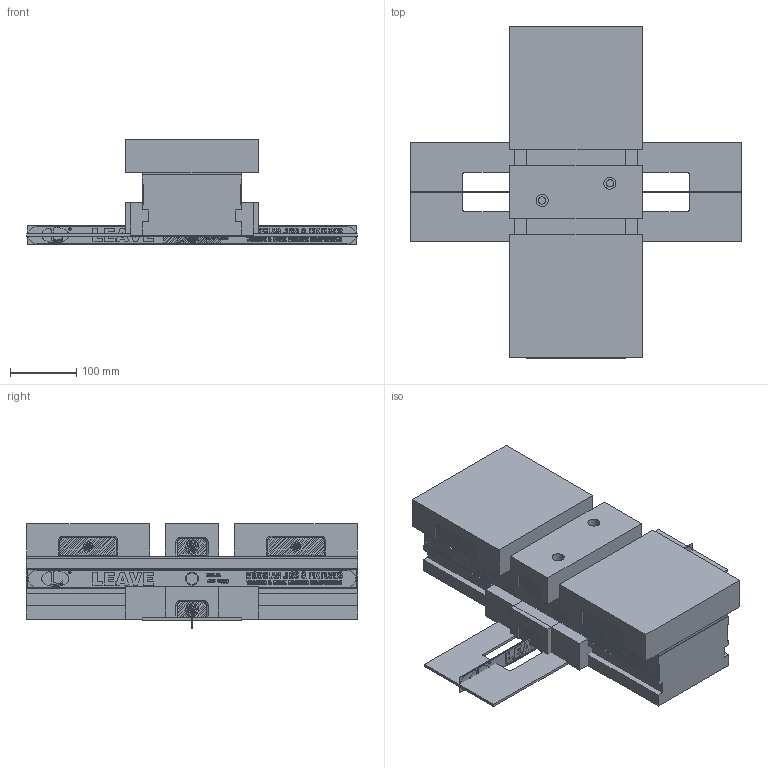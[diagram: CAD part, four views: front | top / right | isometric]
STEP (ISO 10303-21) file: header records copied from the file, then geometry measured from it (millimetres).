
FILE_DESCRIPTION( ( 'Unknown' ), '1' );
FILE_NAME( 's:/Solid Edge/給客戶的CD-3D/ALV-3D/ALV-1550/ALV-1550-組件/ALV-1550-2W.stp', 'Unknown', ( 'S.C.H' ), ( 'Unknown' ), 'XStep 1.0', 'Unknown', ' ' );
FILE_SCHEMA( ( 'CONFIG_CONTROL_DESIGN' ) );
Length unit declared in the file: millimetre
Products named in the file (11): Assem1; Assem2; Assem3; Assem4; 1; 2; 3; 4; 5; 6; 7
Bounding box: 498 x 500 x 158 mm (x, y, z)
Volume: 29461261.6 mm3; surface area: 2068944.3 mm2
Topology: 29 solids, 29 shells, 8661 faces, 22848 edges, 15222 vertices
Faces by surface type: plane 5392, cylinder 1681, extrusion 1560, torus 28
Full cylindrical faces by diameter (mm): 3.511 x5, 3.673 x5, 11 x6, 12 x18, 17.5 x5, 18 x6, 19.5 x5, 20 x6
Entity records: 57517 total; most frequent: CARTESIAN_POINT 14961, ORIENTED_EDGE 9028, DIRECTION 7726, EDGE_CURVE 4514, VECTOR 3514, LINE 3202, VERTEX_POINT 3016, AXIS2_PLACEMENT_3D 2106
